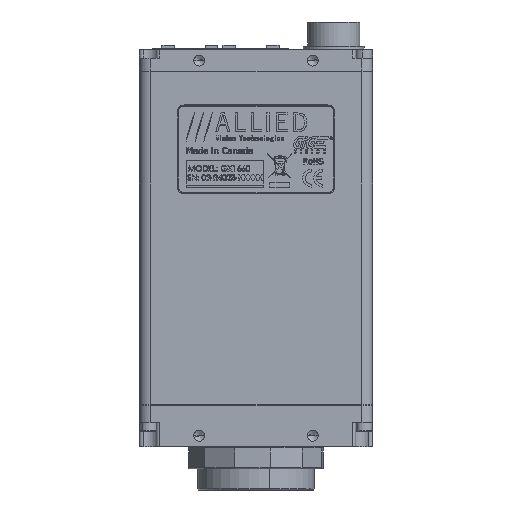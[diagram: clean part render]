
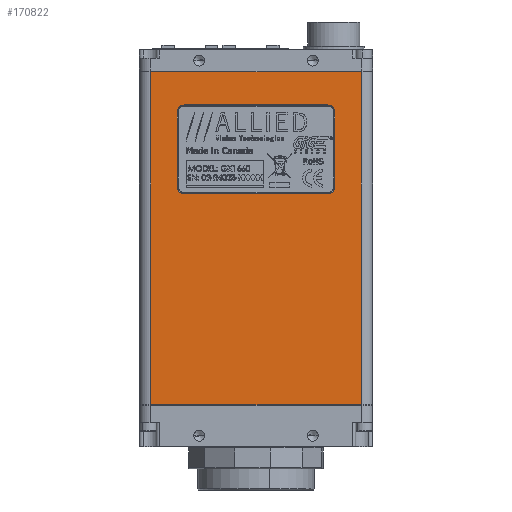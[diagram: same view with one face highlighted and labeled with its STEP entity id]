
A CAD part, front view. The second image highlights one B-rep face of the part: STEP entity #170822.
In plain terms, the highlighted planar face has unit normal (0, -1, 0).
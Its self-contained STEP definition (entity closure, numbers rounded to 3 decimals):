
#7543 = DIRECTION ( 'NONE',  ( 1., 0., 0. ) ) ;
#9121 = CARTESIAN_POINT ( 'NONE',  ( -16.447, -10.16, 11.748 ) ) ;
#12486 = CARTESIAN_POINT ( 'NONE',  ( -24.13, -10.16, -92.399 ) ) ;
#12981 = VERTEX_POINT ( 'NONE', #104529 ) ;
#26003 = DIRECTION ( 'NONE',  ( 1., 0., 0. ) ) ;
#28008 = DIRECTION ( 'NONE',  ( 0., -1., 0. ) ) ;
#30234 = CARTESIAN_POINT ( 'NONE',  ( -18.034, -10.16, -92.399 ) ) ;
#31769 = LINE ( 'NONE', #205929, #76241 ) ;
#32554 = EDGE_CURVE ( 'NONE', #160950, #51294, #31769, .T. ) ;
#34459 = CARTESIAN_POINT ( 'NONE',  ( 16.447, -10.16, 11.748 ) ) ;
#35152 = EDGE_LOOP ( 'NONE', ( #149369, #97742, #87783, #54997 ) ) ;
#35177 = VERTEX_POINT ( 'NONE', #42495 ) ;
#36084 = VECTOR ( 'NONE', #129899, 1000. ) ;
#37423 = CIRCLE ( 'NONE', #167451, 1.587 ) ;
#37461 = CARTESIAN_POINT ( 'NONE',  ( 18.034, -10.16, -92.399 ) ) ;
#39465 = VERTEX_POINT ( 'NONE', #190598 ) ;
#42284 = CARTESIAN_POINT ( 'NONE',  ( 24.13, -10.16, 38.1 ) ) ;
#42495 = CARTESIAN_POINT ( 'NONE',  ( -18.034, -10.16, 28.893 ) ) ;
#43655 = ORIENTED_EDGE ( 'NONE', *, *, #146930, .T. ) ;
#45700 = CARTESIAN_POINT ( 'NONE',  ( -24.13, -10.16, 38.1 ) ) ;
#49527 = LINE ( 'NONE', #133917, #213942 ) ;
#51247 = DIRECTION ( 'NONE',  ( 0., 1., 0. ) ) ;
#51272 = DIRECTION ( 'NONE',  ( 1., 0., 0. ) ) ;
#51294 = VERTEX_POINT ( 'NONE', #151570 ) ;
#51435 = EDGE_CURVE ( 'NONE', #80510, #125866, #203021, .T. ) ;
#52677 = CARTESIAN_POINT ( 'NONE',  ( -18.034, -10.16, 11.748 ) ) ;
#54997 = ORIENTED_EDGE ( 'NONE', *, *, #32554, .T. ) ;
#58381 = DIRECTION ( 'NONE',  ( -1., 0., 0. ) ) ;
#59203 = CIRCLE ( 'NONE', #67388, 1.587 ) ;
#62930 = VERTEX_POINT ( 'NONE', #96902 ) ;
#67388 = AXIS2_PLACEMENT_3D ( 'NONE', #150636, #51247, #167071 ) ;
#69893 = ORIENTED_EDGE ( 'NONE', *, *, #207848, .T. ) ;
#73256 = CIRCLE ( 'NONE', #155848, 1.587 ) ;
#74722 = EDGE_CURVE ( 'NONE', #51294, #177967, #75384, .T. ) ;
#75384 = LINE ( 'NONE', #42284, #201227 ) ;
#76229 = VECTOR ( 'NONE', #202522, 1000. ) ;
#76241 = VECTOR ( 'NONE', #210162, 1000. ) ;
#76474 = EDGE_LOOP ( 'NONE', ( #69893, #208571, #43655, #153848, #139609, #186453, #190118, #205239 ) ) ;
#77274 = VECTOR ( 'NONE', #144538, 1000. ) ;
#80510 = VERTEX_POINT ( 'NONE', #115374 ) ;
#82183 = CARTESIAN_POINT ( 'NONE',  ( 16.447, -10.16, 30.48 ) ) ;
#83208 = EDGE_CURVE ( 'NONE', #96433, #12981, #125566, .T. ) ;
#87477 = VECTOR ( 'NONE', #211398, 1000. ) ;
#87783 = ORIENTED_EDGE ( 'NONE', *, *, #194142, .T. ) ;
#91862 = CARTESIAN_POINT ( 'NONE',  ( 24.13, -10.16, -38.1 ) ) ;
#95371 = EDGE_CURVE ( 'NONE', #168893, #35177, #206198, .T. ) ;
#96433 = VERTEX_POINT ( 'NONE', #211020 ) ;
#96902 = CARTESIAN_POINT ( 'NONE',  ( -24.13, -10.16, -38.1 ) ) ;
#97742 = ORIENTED_EDGE ( 'NONE', *, *, #129486, .T. ) ;
#99860 = DIRECTION ( 'NONE',  ( 1., 0., 0. ) ) ;
#104529 = CARTESIAN_POINT ( 'NONE',  ( 18.034, -10.16, 11.748 ) ) ;
#107052 = LINE ( 'NONE', #197952, #145645 ) ;
#107564 = DIRECTION ( 'NONE',  ( 0., 1., 0. ) ) ;
#115145 = EDGE_CURVE ( 'NONE', #125866, #168893, #37423, .T. ) ;
#115374 = CARTESIAN_POINT ( 'NONE',  ( 16.447, -10.16, 10.16 ) ) ;
#124563 = EDGE_CURVE ( 'NONE', #39465, #158770, #49527, .T. ) ;
#125566 = LINE ( 'NONE', #37461, #76229 ) ;
#125685 = DIRECTION ( 'NONE',  ( 0., 1., 0. ) ) ;
#125866 = VERTEX_POINT ( 'NONE', #136581 ) ;
#127674 = CARTESIAN_POINT ( 'NONE',  ( 24.13, -10.16, -92.399 ) ) ;
#129486 = EDGE_CURVE ( 'NONE', #177967, #62930, #131456, .T. ) ;
#129899 = DIRECTION ( 'NONE',  ( 0., 0., 1. ) ) ;
#131268 = CARTESIAN_POINT ( 'NONE',  ( 24.13, -10.16, 10.16 ) ) ;
#131456 = LINE ( 'NONE', #12486, #87477 ) ;
#133917 = CARTESIAN_POINT ( 'NONE',  ( 24.13, -10.16, 30.48 ) ) ;
#136581 = CARTESIAN_POINT ( 'NONE',  ( -16.447, -10.16, 10.16 ) ) ;
#139609 = ORIENTED_EDGE ( 'NONE', *, *, #195047, .T. ) ;
#142081 = PLANE ( 'NONE',  #192788 ) ;
#144181 = DIRECTION ( 'NONE',  ( 1., 0., 0. ) ) ;
#144538 = DIRECTION ( 'NONE',  ( -1., 0., 0. ) ) ;
#145645 = VECTOR ( 'NONE', #99860, 1000. ) ;
#146930 = EDGE_CURVE ( 'NONE', #158770, #96433, #59203, .T. ) ;
#149369 = ORIENTED_EDGE ( 'NONE', *, *, #74722, .T. ) ;
#150636 = CARTESIAN_POINT ( 'NONE',  ( 16.447, -10.16, 28.893 ) ) ;
#150662 = DIRECTION ( 'NONE',  ( 0., 1., 0. ) ) ;
#151570 = CARTESIAN_POINT ( 'NONE',  ( 24.13, -10.16, 38.1 ) ) ;
#152750 = FACE_BOUND ( 'NONE', #76474, .T. ) ;
#153848 = ORIENTED_EDGE ( 'NONE', *, *, #83208, .T. ) ;
#155848 = AXIS2_PLACEMENT_3D ( 'NONE', #205349, #107564, #7543 ) ;
#158770 = VERTEX_POINT ( 'NONE', #82183 ) ;
#160950 = VERTEX_POINT ( 'NONE', #91862 ) ;
#167071 = DIRECTION ( 'NONE',  ( 1., 0., 0. ) ) ;
#167451 = AXIS2_PLACEMENT_3D ( 'NONE', #9121, #125685, #26003 ) ;
#168893 = VERTEX_POINT ( 'NONE', #52677 ) ;
#170822 = ADVANCED_FACE ( 'NONE', ( #190870, #152750 ), #142081, .T. ) ;
#174052 = AXIS2_PLACEMENT_3D ( 'NONE', #34459, #150662, #51272 ) ;
#177967 = VERTEX_POINT ( 'NONE', #45700 ) ;
#186453 = ORIENTED_EDGE ( 'NONE', *, *, #51435, .T. ) ;
#190118 = ORIENTED_EDGE ( 'NONE', *, *, #115145, .T. ) ;
#190598 = CARTESIAN_POINT ( 'NONE',  ( -16.447, -10.16, 30.48 ) ) ;
#190870 = FACE_OUTER_BOUND ( 'NONE', #35152, .T. ) ;
#192788 = AXIS2_PLACEMENT_3D ( 'NONE', #127674, #28008, #144181 ) ;
#194142 = EDGE_CURVE ( 'NONE', #62930, #160950, #107052, .T. ) ;
#195047 = EDGE_CURVE ( 'NONE', #12981, #80510, #211641, .T. ) ;
#197952 = CARTESIAN_POINT ( 'NONE',  ( 24.13, -10.16, -38.1 ) ) ;
#199383 = DIRECTION ( 'NONE',  ( 1., 0., 0. ) ) ;
#201227 = VECTOR ( 'NONE', #58381, 1000. ) ;
#202522 = DIRECTION ( 'NONE',  ( 0., 0., -1. ) ) ;
#203021 = LINE ( 'NONE', #131268, #77274 ) ;
#205239 = ORIENTED_EDGE ( 'NONE', *, *, #95371, .T. ) ;
#205349 = CARTESIAN_POINT ( 'NONE',  ( -16.447, -10.16, 28.893 ) ) ;
#205929 = CARTESIAN_POINT ( 'NONE',  ( 24.13, -10.16, -92.399 ) ) ;
#206198 = LINE ( 'NONE', #30234, #36084 ) ;
#207848 = EDGE_CURVE ( 'NONE', #35177, #39465, #73256, .T. ) ;
#208571 = ORIENTED_EDGE ( 'NONE', *, *, #124563, .T. ) ;
#210162 = DIRECTION ( 'NONE',  ( 0., 0., 1. ) ) ;
#211020 = CARTESIAN_POINT ( 'NONE',  ( 18.034, -10.16, 28.893 ) ) ;
#211398 = DIRECTION ( 'NONE',  ( 0., 0., -1. ) ) ;
#211641 = CIRCLE ( 'NONE', #174052, 1.587 ) ;
#213942 = VECTOR ( 'NONE', #199383, 1000. ) ;
